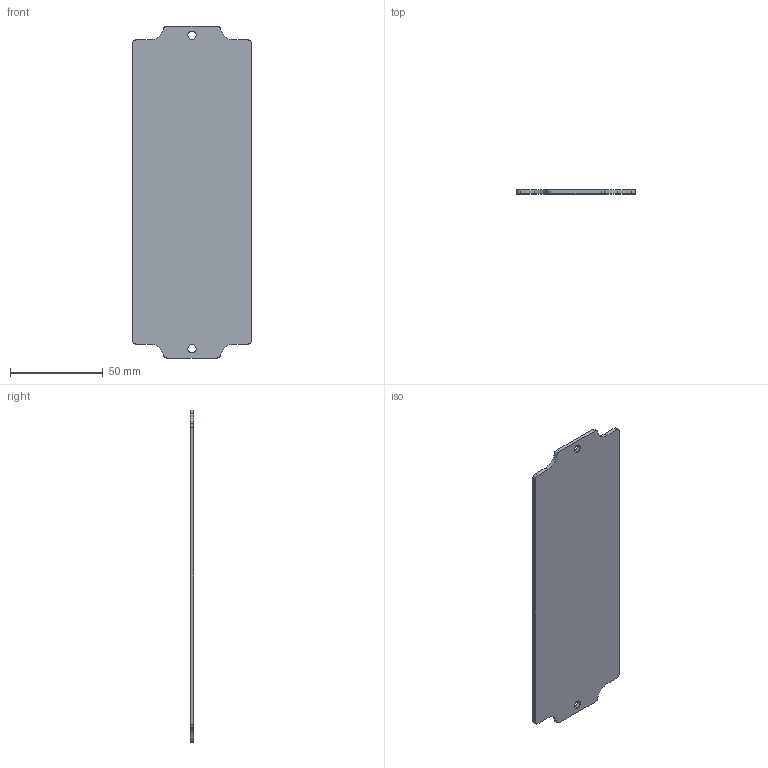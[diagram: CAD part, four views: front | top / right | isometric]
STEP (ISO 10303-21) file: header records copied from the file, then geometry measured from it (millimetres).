
FILE_DESCRIPTION (( 'STEP AP203' ), '1' );
FILE_NAME ('a19075p.STEP', '2013-06-05T17:50:01', ( 'User' ), ( 'Pentair Inc' ), 'SwSTEP 2.0', 'SolidWorks 2010', '' );
FILE_SCHEMA (( 'CONFIG_CONTROL_DESIGN' ));
Length unit declared in the file: inch
Products named in the file (1): a19075p
Bounding box: 64 x 2 x 179 mm (x, y, z)
Volume: 21930.2 mm3; surface area: 22921.9 mm2
Topology: 1 solids, 1 shells, 26 faces, 72 edges, 48 vertices
Faces by surface type: cylinder 16, plane 10
Entity records: 935 total; most frequent: DIRECTION 158, CARTESIAN_POINT 147, ORIENTED_EDGE 144, EDGE_CURVE 72, AXIS2_PLACEMENT_3D 59, VERTEX_POINT 48, VECTOR 40, LINE 40
